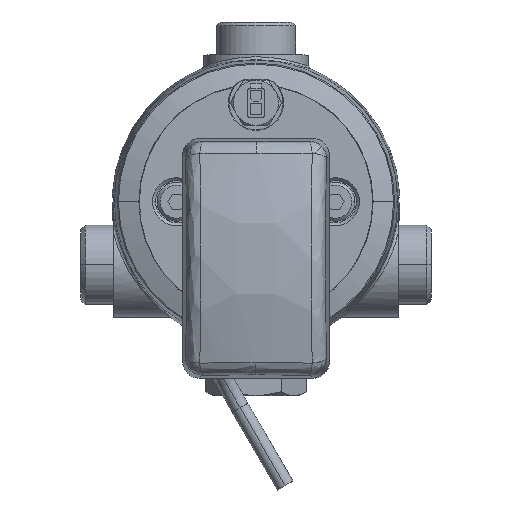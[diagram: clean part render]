
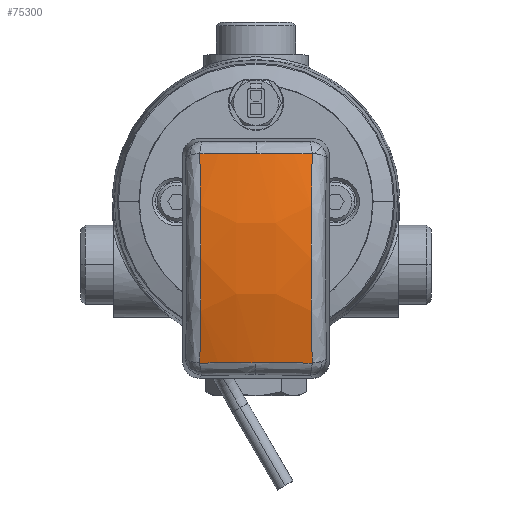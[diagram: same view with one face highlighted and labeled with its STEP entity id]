
A CAD part, top view. The second image highlights one B-rep face of the part: STEP entity #75300.
In plain terms, the highlighted free-form (B-spline) face has degree [3, 3] with [4, 4] control points.
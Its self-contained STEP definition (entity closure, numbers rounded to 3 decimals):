
#598 = CARTESIAN_POINT ( 'NONE',  ( -34.968, 23.537, 18.741 ) ) ;
#3666 = AXIS2_PLACEMENT_3D ( 'NONE', #98066, #9781, #50079 ) ;
#4968 = CIRCLE ( 'NONE', #78570, 117.316 ) ;
#5164 = DIRECTION ( 'NONE',  ( 0.998, -0.07, 0. ) ) ;
#6925 = CARTESIAN_POINT ( 'NONE',  ( 0., -93.119, 26.898 ) ) ;
#7263 = DIRECTION ( 'NONE',  ( 0., -0.07, -0.998 ) ) ;
#9142 = VERTEX_POINT ( 'NONE', #72992 ) ;
#9635 = VERTEX_POINT ( 'NONE', #59741 ) ;
#9781 = DIRECTION ( 'NONE',  ( -0.998, -0.07, 0. ) ) ;
#11043 = CARTESIAN_POINT ( 'NONE',  ( 35.376, 25.396, 6.368 ) ) ;
#15135 = EDGE_CURVE ( 'NONE', #27432, #9142, #28587, .T. ) ;
#18128 = AXIS2_PLACEMENT_3D ( 'NONE', #6925, #7263, #86829 ) ;
#18240 = ORIENTED_EDGE ( 'NONE', *, *, #50629, .T. ) ;
#19124 = CARTESIAN_POINT ( 'NONE',  ( -12.122, 32.287, 6.733 ) ) ;
#20142 = CARTESIAN_POINT ( 'NONE',  ( 12.122, 32.287, -6.733 ) ) ;
#20477 = CARTESIAN_POINT ( 'NONE',  ( -12.122, 32.287, -6.733 ) ) ;
#27432 = VERTEX_POINT ( 'NONE', #97473 ) ;
#27868 = CARTESIAN_POINT ( 'NONE',  ( -35.376, 25.396, 6.368 ) ) ;
#28587 = CIRCLE ( 'NONE', #100215, 122.057 ) ;
#29302 = VERTEX_POINT ( 'NONE', #66098 ) ;
#30090 = CARTESIAN_POINT ( 'NONE',  ( -43.046, -91.99, 0. ) ) ;
#30400 = FACE_OUTER_BOUND ( 'NONE', #78004, .T. ) ;
#31036 = CIRCLE ( 'NONE', #65924, 117.316 ) ;
#32500 = ORIENTED_EDGE ( 'NONE', *, *, #51183, .T. ) ;
#32567 = EDGE_CURVE ( 'NONE', #9142, #29302, #31036, .T. ) ;
#32637 = CIRCLE ( 'NONE', #18128, 122.057 ) ;
#33781 = AXIS2_PLACEMENT_3D ( 'NONE', #78535, #55108, #38601 ) ;
#37079 = DIRECTION ( 'NONE',  ( 0.07, 0.998, -0.003 ) ) ;
#37507 =( BOUNDED_SURFACE ( )  B_SPLINE_SURFACE ( 3, 3, ( 
 ( #75856, #27868, #75527, #67814 ),
 ( #76532, #19124, #20477, #43613 ),
 ( #51007, #99655, #20142, #91945 ),
 ( #100003, #11043, #82904, #43944 ) ),
 .UNSPECIFIED., .F., .F., .F. ) 
 B_SPLINE_SURFACE_WITH_KNOTS ( ( 4, 4 ),
 ( 4, 4 ),
 ( 0., 1. ),
 ( 0., 1. ),
 .UNSPECIFIED. ) 
 GEOMETRIC_REPRESENTATION_ITEM ( )  RATIONAL_B_SPLINE_SURFACE ( (
 ( 1., 0.992, 0.992, 1.),
 ( 0.973, 0.965, 0.965, 0.973),
 ( 0.973, 0.965, 0.965, 0.973),
 ( 1., 0.992, 0.992, 1.) ) ) 
 REPRESENTATION_ITEM ( '' )  SURFACE ( )  );
#38601 = DIRECTION ( 'NONE',  ( -0.07, 0.998, 0.003 ) ) ;
#40809 = DIRECTION ( 'NONE',  ( 0.07, 0.998, -0.003 ) ) ;
#43613 = CARTESIAN_POINT ( 'NONE',  ( -12.122, 30.159, -20.029 ) ) ;
#43944 = CARTESIAN_POINT ( 'NONE',  ( 35.376, 23.383, -18.945 ) ) ;
#50079 = DIRECTION ( 'NONE',  ( -0.07, 0.998, 0.003 ) ) ;
#50629 = EDGE_CURVE ( 'NONE', #50813, #61094, #32637, .T. ) ;
#50813 = VERTEX_POINT ( 'NONE', #598 ) ;
#51007 = CARTESIAN_POINT ( 'NONE',  ( 12.122, 30.159, 20.029 ) ) ;
#51183 = EDGE_CURVE ( 'NONE', #29302, #50813, #4968, .T. ) ;
#55108 = DIRECTION ( 'NONE',  ( -0.998, -0.07, 0. ) ) ;
#55265 = EDGE_CURVE ( 'NONE', #9635, #27432, #57277, .T. ) ;
#57277 = CIRCLE ( 'NONE', #3666, 117.316 ) ;
#59741 = CARTESIAN_POINT ( 'NONE',  ( 34.863, 25.04, 0.304 ) ) ;
#61094 = VERTEX_POINT ( 'NONE', #102792 ) ;
#62533 = ORIENTED_EDGE ( 'NONE', *, *, #55265, .T. ) ;
#65133 = CARTESIAN_POINT ( 'NONE',  ( 0., -93.119, -26.898 ) ) ;
#65924 = AXIS2_PLACEMENT_3D ( 'NONE', #30090, #5164, #37079 ) ;
#66098 = CARTESIAN_POINT ( 'NONE',  ( -34.863, 25.04, -0.304 ) ) ;
#67814 = CARTESIAN_POINT ( 'NONE',  ( -35.376, 23.383, -18.945 ) ) ;
#70554 = ORIENTED_EDGE ( 'NONE', *, *, #32567, .T. ) ;
#72743 = CARTESIAN_POINT ( 'NONE',  ( -43.046, -91.99, 0. ) ) ;
#72992 = CARTESIAN_POINT ( 'NONE',  ( -34.968, 23.537, -18.741 ) ) ;
#75300 = ADVANCED_FACE ( 'NONE', ( #30400 ), #37507, .T. ) ;
#75527 = CARTESIAN_POINT ( 'NONE',  ( -35.376, 25.396, -6.368 ) ) ;
#75856 = CARTESIAN_POINT ( 'NONE',  ( -35.376, 23.383, 18.945 ) ) ;
#76532 = CARTESIAN_POINT ( 'NONE',  ( -12.122, 30.159, 20.029 ) ) ;
#76668 = CIRCLE ( 'NONE', #33781, 117.316 ) ;
#78004 = EDGE_LOOP ( 'NONE', ( #89504, #70554, #32500, #18240, #102826, #62533 ) ) ;
#78535 = CARTESIAN_POINT ( 'NONE',  ( 43.046, -91.99, 0. ) ) ;
#78570 = AXIS2_PLACEMENT_3D ( 'NONE', #72743, #88822, #40809 ) ;
#82904 = CARTESIAN_POINT ( 'NONE',  ( 35.376, 25.396, -6.368 ) ) ;
#86829 = DIRECTION ( 'NONE',  ( -0.339, 0.939, -0.066 ) ) ;
#88590 = DIRECTION ( 'NONE',  ( 0.339, 0.939, 0.066 ) ) ;
#88822 = DIRECTION ( 'NONE',  ( 0.998, -0.07, 0. ) ) ;
#89504 = ORIENTED_EDGE ( 'NONE', *, *, #15135, .T. ) ;
#91945 = CARTESIAN_POINT ( 'NONE',  ( 12.122, 30.159, -20.029 ) ) ;
#93681 = EDGE_CURVE ( 'NONE', #61094, #9635, #76668, .T. ) ;
#97473 = CARTESIAN_POINT ( 'NONE',  ( 34.968, 23.537, -18.741 ) ) ;
#98008 = DIRECTION ( 'NONE',  ( 0., -0.07, 0.998 ) ) ;
#98066 = CARTESIAN_POINT ( 'NONE',  ( 43.046, -91.99, 0. ) ) ;
#99655 = CARTESIAN_POINT ( 'NONE',  ( 12.122, 32.287, 6.733 ) ) ;
#100003 = CARTESIAN_POINT ( 'NONE',  ( 35.376, 23.383, 18.945 ) ) ;
#100215 = AXIS2_PLACEMENT_3D ( 'NONE', #65133, #98008, #88590 ) ;
#102792 = CARTESIAN_POINT ( 'NONE',  ( 34.968, 23.537, 18.741 ) ) ;
#102826 = ORIENTED_EDGE ( 'NONE', *, *, #93681, .T. ) ;
